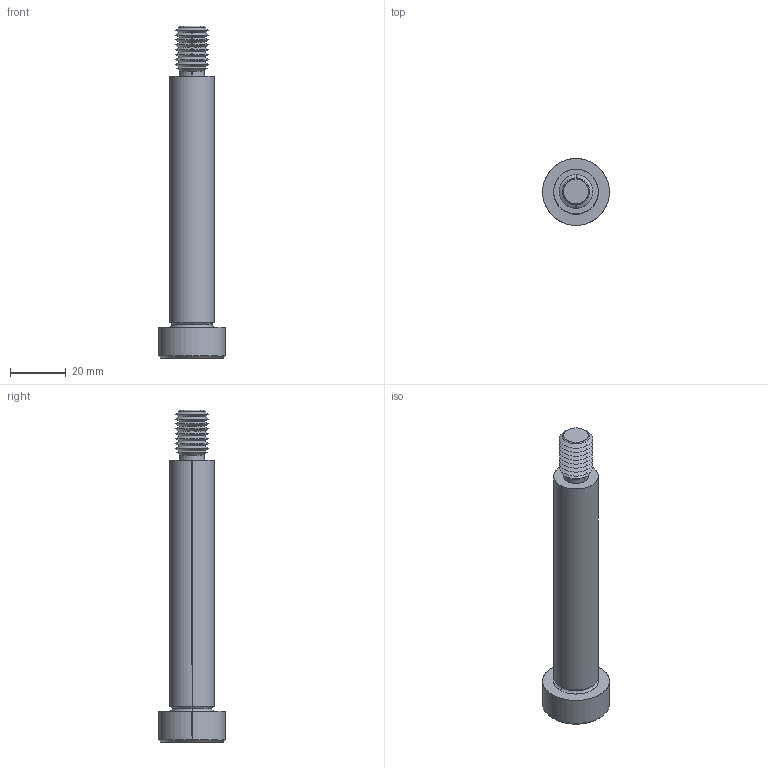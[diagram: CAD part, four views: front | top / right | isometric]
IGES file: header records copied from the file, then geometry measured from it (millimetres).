
Start section: SolidWorks IGES file using analytic representation for surfaces
Global section: file name: C:\Users\IanO\Documents\Temp Folder\GENERAL\SCREW REVISION\P0130_v2\P0130.T5_v2_20220106_IGES\P0130.160-090-T5.igs; native system: SolidWorks 2019; preprocessor: SolidWorks 2019; author: IanO; date: 220106.225756; units: millimetre
Bounding box: 24 x 24 x 119 mm (x, y, z)
Surface area: 7570.4 mm2 (no closed solid volume)
Topology: 0 solids, 0 shells, 76 faces, 588 edges, 586 vertices
Faces by surface type: revolution 56, bspline 20
